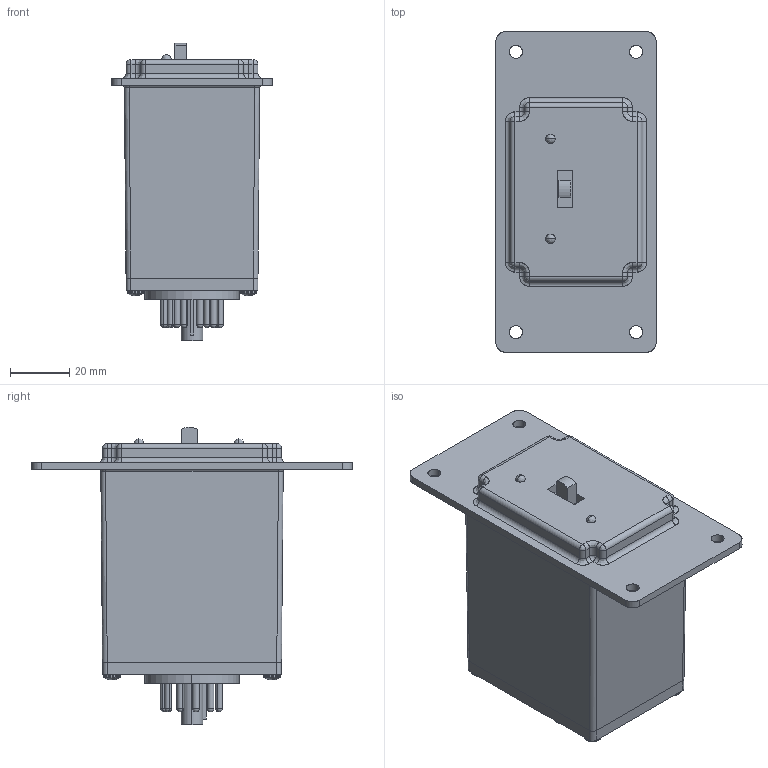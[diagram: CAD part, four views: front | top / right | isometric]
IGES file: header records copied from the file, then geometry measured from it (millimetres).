
Start section: SolidWorks IGES file using analytic representation for surfaces
Global section: file name: D:\Modeling Work\Macromatic\2019\Phase 2\ARF\ARF.igs; native system: SolidWorks 2019; preprocessor: SolidWorks 2019; author: mdahl; date: 190629.164548; units: millimetre
Bounding box: 53.98 x 107.95 x 100.19 mm (x, y, z)
Surface area: 36126.6 mm2 (no closed solid volume)
Topology: 0 solids, 0 shells, 803 faces, 10495 edges, 10425 vertices
Faces by surface type: bspline 426, revolution 377
